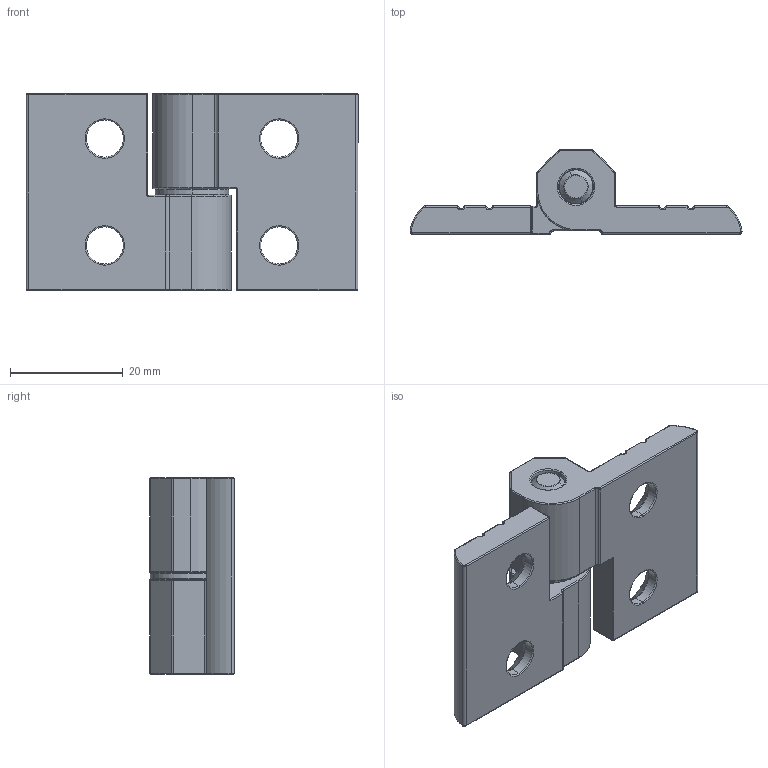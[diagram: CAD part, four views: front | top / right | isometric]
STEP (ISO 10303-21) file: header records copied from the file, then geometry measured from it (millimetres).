
FILE_DESCRIPTION (( 'STEP AP214' ), '1' );
FILE_NAME ('HGA-5935-3119-R.STEP', '2020-03-23T07:12:48', ( '' ), ( '' ), 'SwSTEP 2.0', 'SolidWorks 2016', '' );
FILE_SCHEMA (( 'AUTOMOTIVE_DESIGN' ));
Length unit declared in the file: millimetre
Products named in the file (4): 墊片; 縡?ﾆｬ; 脣誏; HGA-5935-3119-R
Assembly tree (4 placements, depth 2):
  HGA-5935-3119-R
    縡?ﾆｬ  x2
    脣誏
    墊片
Bounding box: 59 x 15 x 35 mm (x, y, z)
Volume: 12261.5 mm3; surface area: 7736.2 mm2
Topology: 4 solids, 4 shells, 600 faces, 1465 edges, 811 vertices
Faces by surface type: cylinder 291, torus 110, plane 95, sphere 62, bspline 32, cone 10
Entity records: 13369 total; most frequent: CARTESIAN_POINT 3341, DIRECTION 2307, ORIENTED_EDGE 2014, AXIS2_PLACEMENT_3D 1019, EDGE_CURVE 1007, CIRCLE 612, VERTEX_POINT 595, EDGE_LOOP 422
